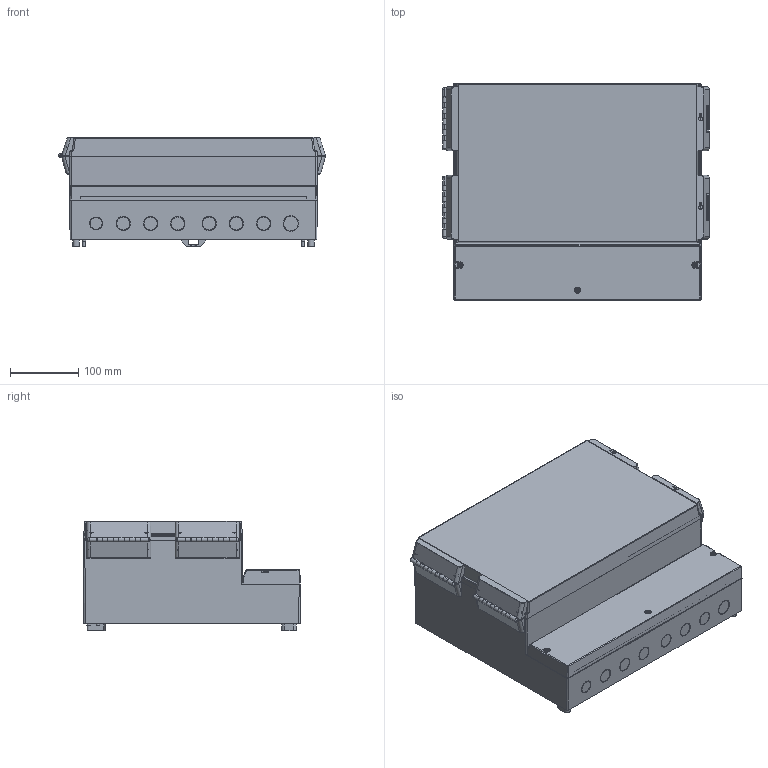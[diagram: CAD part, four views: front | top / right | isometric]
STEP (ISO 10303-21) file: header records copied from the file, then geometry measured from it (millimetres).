
FILE_DESCRIPTION((''),'2;1');
FILE_NAME('F:\User\Daten\Internet-3D-Daten\RCP - CF - CR - CB\RCP 400_\41400109_RCP 4000.stp','2010-02-18T13:51:14',('haertel'),(''),'Autodesk Inventor 2010','Autodesk Inventor 2010','');
FILE_SCHEMA(('AUTOMOTIVE_DESIGN { 1 0 10303 214 1 1 1 1 }'));
Length unit declared in the file: millimetre
Products named in the file (8): RCP; 1002864_3Dsym; 1002870_3Dsym; SHR Z KAL40x25x10 WN 1412 mG_3Dsym; 1002868_3Dsym; 1002549_3Dsym_montiert; 1002545_3Dsym_montiert; 1002552_3Dsym
Assembly tree (12 placements, depth 2):
  RCP
    1002864_3Dsym
    1002870_3Dsym
    SHR Z KAL40x25x10 WN 1412 mG_3Dsym  x3
    1002868_3Dsym
    1002549_3Dsym_montiert  x2
    1002545_3Dsym_montiert  x2
    1002552_3Dsym  x2
Bounding box: 391.91 x 318.6 x 160.5 mm (x, y, z)
Volume: 2042452.1 mm3; surface area: 1050843 mm2
Topology: 12 solids, 12 shells, 3056 faces, 8174 edges, 5287 vertices
Faces by surface type: plane 2141, cylinder 702, bspline 136, torus 42, cone 29, sphere 6
Full cylindrical faces by diameter (mm): 2 x20, 2.1 x20, 2.4 x27, 2.45 x4, 2.5 x8, 2.9 x3, 3.15 x1, 3.2 x10, 3.25 x2, 4.2 x5, 4.5 x16, 5 x4, 6.7 x16, 7 x7, 7.2 x1, 8.8 x22, 12 x1, 17.4 x1, 19 x1, 19.2 x14, 20.8 x14, 21.3 x1, 22.9 x1
Entity records: 71829 total; most frequent: CARTESIAN_POINT 16362, ORIENTED_EDGE 11352, DIRECTION 11225, EDGE_CURVE 5676, VECTOR 4341, LINE 4341, VERTEX_POINT 3799, AXIS2_PLACEMENT_3D 3442
